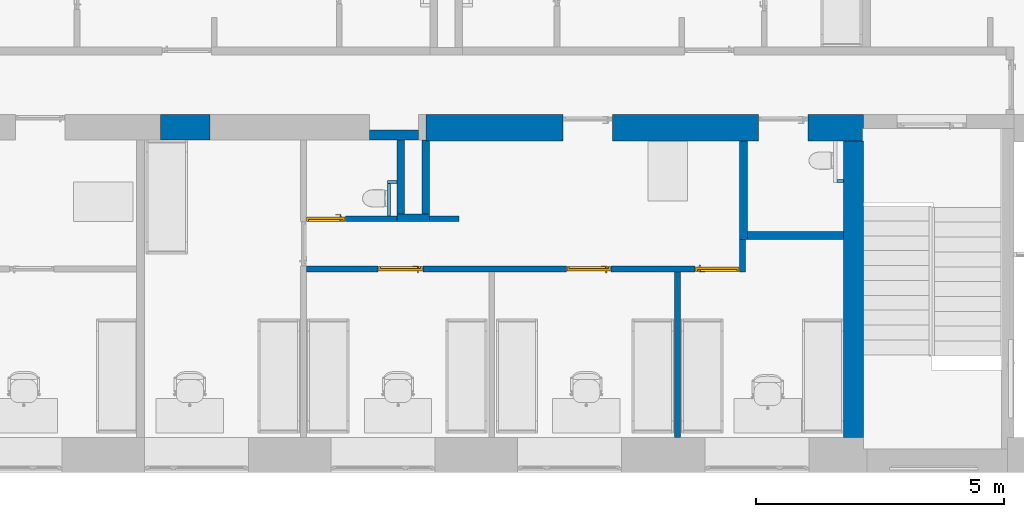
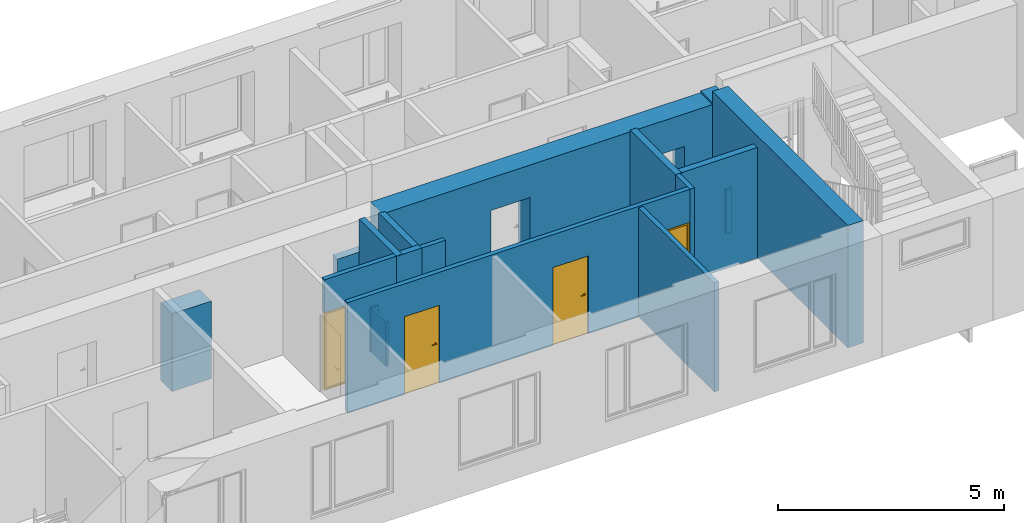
# One storey, part 10 of 46: 17 walls, 4 doors, 6 openings.
"""IFC2X3 building model written with IfcOpenShell, lengths in millimetres."""

from ifc_helpers import new_model, entity, si_unit, converted_unit, derived_unit, direction, frame, frame_2d, origin, place, context, subcontext, project, spatial, polyline, rectangle, outline, extrude, clip, bounded_halfspace, faceted_brep, source, transform, mapped, material, material_list, layer, layer_set, layer_usage, type_object, type_shapes, element, fill, save


model = new_model("IFC2X3")

# Units and contexts
model_context = context("Model", 3, precision=0.01, world=origin(), true_north=direction((6.12303176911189e-17, 1.0)))
body_context = subcontext(model_context, "Body", "Model", "MODEL_VIEW")
ifc_project = project(units=[si_unit("LENGTHUNIT", "METRE", prefix="MILLI"), si_unit("AREAUNIT", "SQUARE_METRE"), si_unit("VOLUMEUNIT", "CUBIC_METRE"), converted_unit("PLANEANGLEUNIT", "DEGREE", entity("IfcRatioMeasure", 0.0174532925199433), si_unit("PLANEANGLEUNIT", "RADIAN"), dimensions=[0, 0, 0, 0, 0, 0, 0]), si_unit("MASSUNIT", "GRAM", prefix="KILO"), derived_unit("MASSDENSITYUNIT", [(si_unit("MASSUNIT", "GRAM", prefix="KILO"), 1), (si_unit("LENGTHUNIT", "METRE"), -3)]), si_unit("TIMEUNIT", "SECOND"), si_unit("FREQUENCYUNIT", "HERTZ"), si_unit("THERMODYNAMICTEMPERATUREUNIT", "DEGREE_CELSIUS"), derived_unit("THERMALTRANSMITTANCEUNIT", [(si_unit("MASSUNIT", "GRAM", prefix="KILO"), 1), (si_unit("THERMODYNAMICTEMPERATUREUNIT", "KELVIN"), -1), (si_unit("TIMEUNIT", "SECOND"), -3)]), derived_unit("VOLUMETRICFLOWRATEUNIT", [(si_unit("LENGTHUNIT", "METRE"), 3), (si_unit("TIMEUNIT", "SECOND"), -1)]), si_unit("ELECTRICCURRENTUNIT", "AMPERE"), si_unit("ELECTRICVOLTAGEUNIT", "VOLT"), si_unit("POWERUNIT", "WATT"), si_unit("FORCEUNIT", "NEWTON", prefix="KILO"), si_unit("ILLUMINANCEUNIT", "LUX"), si_unit("LUMINOUSFLUXUNIT", "LUMEN"), si_unit("LUMINOUSINTENSITYUNIT", "CANDELA"), derived_unit("USERDEFINED", [(si_unit("MASSUNIT", "GRAM", prefix="KILO"), -1), (si_unit("LENGTHUNIT", "METRE"), -2), (si_unit("TIMEUNIT", "SECOND"), 3), (si_unit("LUMINOUSFLUXUNIT", "LUMEN"), 1)]), derived_unit("LINEARVELOCITYUNIT", [(si_unit("LENGTHUNIT", "METRE"), 1), (si_unit("TIMEUNIT", "SECOND"), -1)]), si_unit("PRESSUREUNIT", "PASCAL"), derived_unit("USERDEFINED", [(si_unit("LENGTHUNIT", "METRE"), -2), (si_unit("MASSUNIT", "GRAM", prefix="KILO"), 1), (si_unit("TIMEUNIT", "SECOND"), -2)]), derived_unit("LINEARFORCEUNIT", [(si_unit("MASSUNIT", "GRAM", prefix="KILO"), 1), (si_unit("LENGTHUNIT", "METRE"), 1), (si_unit("TIMEUNIT", "SECOND"), -2), (si_unit("LENGTHUNIT", "METRE"), -1)]), derived_unit("PLANARFORCEUNIT", [(si_unit("MASSUNIT", "GRAM", prefix="KILO"), 1), (si_unit("LENGTHUNIT", "METRE"), 1), (si_unit("TIMEUNIT", "SECOND"), -2), (si_unit("LENGTHUNIT", "METRE"), -2)])], contexts=[model_context])

# Site, building, storey
site_placement = place(None, origin())
site = spatial("IfcSite", under=ifc_project, at=site_placement, Name="Default", CompositionType="ELEMENT")
building_placement = place(site_placement, origin())
building = spatial("IfcBuilding", under=site, at=building_placement, Name="SMA ARH", CompositionType="ELEMENT")
storey_placement = place(building_placement, origin())
storey = spatial("IfcBuildingStorey", under=building, at=storey_placement, Name="1 Korrus", CompositionType="ELEMENT", Elevation=0.0)

# Walls
ifc_material_1 = material(Name="_ol.olev sein")
ifc_layer_1 = layer(ifc_material_1, 400.0)
ifc_layer_set_1 = layer_set([ifc_layer_1], Name="Basic Wall:Generic - 400mm")
ifc_layer_usage_1 = layer_usage(ifc_layer_set_1, "AXIS2", "POSITIVE", -200.0)
wall_type_1 = type_object("IfcWallType", Name="Basic Wall:Generic - 400mm", PredefinedType="STANDARD", material=ifc_layer_set_1)
wall_1_placement = place(storey_placement, frame((30630.0, 5985.0, 0.0), z_axis=(0.0, 0.0, 1.0), x_axis=(0.0, -1.0, 0.0)))
element("IfcWallStandardCase", 1, at=wall_1_placement, inside=storey, type_object=wall_type_1, material=ifc_layer_usage_1, Name="Basic Wall:Generic - 400mm", ObjectType="Basic Wall:Generic - 400mm", context=body_context, shape_type="SweptSolid", body=[
    extrude(rectangle(XDim=5985.00000000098, YDim=399.999999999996, at=frame_2d((2992.50000000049, -1.4210854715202e-14), x_axis=(-1.0, 0.0))), origin(), (0.0, 0.0, 1.0), 3299.99999999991),
])
ifc_material_2 = material(Name="EST. Müüritis. Väikeplokk. Kergkruusplokk")
ifc_layer_2 = layer(ifc_material_2, 150.0)
ifc_layer_set_2 = layer_set([ifc_layer_2], Name="Basic Wall:SS-02_ 150mm šahtide vahesein")
ifc_layer_usage_2 = layer_usage(ifc_layer_set_2, "AXIS2", "NEGATIVE", 75.0)
wall_type_2 = type_object("IfcWallType", Name="Basic Wall:SS-02_ 150mm šahtide vahesein", PredefinedType="STANDARD", material=ifc_layer_set_2)
wall_2_placement = place(storey_placement, frame((21495.0, 6010.0, 0.0), z_axis=(0.0, 0.0, 1.0), x_axis=(0.0, -1.0, 0.0)))
element("IfcWallStandardCase", 2, at=wall_2_placement, inside=storey, type_object=wall_type_2, material=ifc_layer_usage_2, Name="Basic Wall:SS-02_ 150mm šahtide vahesein", ObjectType="Basic Wall:SS-02_ 150mm šahtide vahesein", context=body_context, shape_type="SweptSolid", body=[
    extrude(rectangle(XDim=1650.00000000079, YDim=150.000000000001, at=frame_2d((825.000000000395, 2.20268248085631e-13), x_axis=(-1.0, 0.0))), origin(), (0.0, 0.0, 1.0), 2989.99999999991),
])
ifc_layer_usage_3 = layer_usage(ifc_layer_set_2, "AXIS2", "NEGATIVE", 75.0)
wall_3_placement = place(storey_placement, frame((21420.0, 4435.0, 0.0)))
element("IfcWallStandardCase", 3, at=wall_3_placement, inside=storey, type_object=wall_type_2, material=ifc_layer_usage_3, Name="Basic Wall:SS-02_ 150mm šahtide vahesein", ObjectType="Basic Wall:SS-02_ 150mm šahtide vahesein", context=body_context, shape_type="SweptSolid", body=[
    extrude(rectangle(XDim=649.999999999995, YDim=150.000000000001, at=frame_2d((324.999999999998, -7.105427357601e-14), x_axis=(-1.0, 0.0))), origin(), (0.0, 0.0, 1.0), 2979.99999999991),
])
ifc_layer_usage_4 = layer_usage(ifc_layer_set_2, "AXIS2", "NEGATIVE", 75.0)
wall_4_placement = place(storey_placement, frame((21995.0, 4510.0, 0.0), z_axis=(0.0, 0.0, 1.0), x_axis=(0.0, 1.0, 0.0)))
element("IfcWallStandardCase", 4, at=wall_4_placement, inside=storey, type_object=wall_type_2, material=ifc_layer_usage_4, Name="Basic Wall:SS-02_ 150mm šahtide vahesein", ObjectType="Basic Wall:SS-02_ 150mm šahtide vahesein", context=body_context, shape_type="SweptSolid", body=[
    extrude(outline(polyline([(1475.0, -75.0), (1475.0, -10.0), (1500.0, -10.0), (1500.0, 75.0), (0.0, 75.0), (0.0, -75.0), (1475.0, -75.0)])), origin(), (0.0, 0.0, 1.0), 2979.99999999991),
])
ifc_material_3 = material(Name="EST. Ehitusplaat. Kipsplaat")
ifc_layer_3 = layer(ifc_material_3, 12.5)
ifc_layer_4 = layer(ifc_material_3, 12.5)
ifc_material_4 = material(Name="EST. Soojustus. Mineraalvill. Default")
ifc_layer_5 = layer(ifc_material_4, 50.0)
ifc_layer_6 = layer(ifc_material_3, 12.5)
ifc_layer_7 = layer(ifc_material_4, 50.0)
ifc_layer_8 = layer(ifc_material_3, 12.5)
ifc_layer_9 = layer(ifc_material_3, 12.5)
ifc_layer_set_3 = layer_set([ifc_layer_3, ifc_layer_4, ifc_layer_5, ifc_layer_6, ifc_layer_7, ifc_layer_8, ifc_layer_9], Name="Basic Wall:SS-04_Kips, 50+50 mm metallkarkass 2")
ifc_layer_usage_5 = layer_usage(ifc_layer_set_3, "AXIS2", "NEGATIVE", 81.25)
wall_type_3 = type_object("IfcWallType", Name="Basic Wall:SS-04_Kips, 50+50 mm metallkarkass 2", PredefinedType="STANDARD", material=ifc_layer_set_3)
wall_5_placement = place(storey_placement, frame((30430.0, 4074.52258811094, 0.0), z_axis=(0.0, 0.0, 1.0), x_axis=(-1.0, 0.0, 0.0)))
element("IfcWallStandardCase", 5, at=wall_5_placement, inside=storey, type_object=wall_type_3, material=ifc_layer_usage_5, Name="Basic Wall:SS-04_Kips, 50+50 mm metallkarkass 2", ObjectType="Basic Wall:SS-04_Kips, 50+50 mm metallkarkass 2", context=body_context, shape_type="SweptSolid", body=[
    extrude(rectangle(XDim=1937.04499990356, YDim=162.5, at=frame_2d((968.522499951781, -2.1316282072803e-14), x_axis=(-1.0, 0.0))), origin(), (0.0, 0.0, 1.0), 2989.99999999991),
])
ifc_layer_usage_6 = layer_usage(ifc_layer_set_3, "AXIS2", "NEGATIVE", 81.25)
wall_6_placement = place(storey_placement, frame((28411.7050000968, 5985.0, 0.0), z_axis=(0.0, 0.0, 1.0), x_axis=(0.0, -1.0, 0.0)))
element("IfcWallStandardCase", 6, at=wall_6_placement, inside=storey, type_object=wall_type_3, material=ifc_layer_usage_6, Name="Basic Wall:SS-04_Kips, 50+50 mm metallkarkass 2", ObjectType="Basic Wall:SS-04_Kips, 50+50 mm metallkarkass 2", context=body_context, shape_type="SweptSolid", body=[
    extrude(rectangle(XDim=1991.72741188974, YDim=162.499999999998, at=frame_2d((995.863705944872, -4.76063632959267e-13), x_axis=(-1.0, 0.0))), origin(), (0.0, 0.0, 1.0), 2989.99999999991),
])

# Wall, openings, doors
ifc_layer_10 = layer(ifc_material_3, 12.5)
ifc_layer_11 = layer(ifc_material_3, 12.5)
ifc_layer_12 = layer(ifc_material_4, 66.0)
ifc_layer_13 = layer(ifc_material_3, 12.5)
ifc_layer_14 = layer(ifc_material_3, 12.5)
ifc_layer_set_4 = layer_set([ifc_layer_10, ifc_layer_11, ifc_layer_12, ifc_layer_13, ifc_layer_14], Name="Basic Wall:SS-05_Kips, 66mm metallkarkass")
ifc_layer_usage_7 = layer_usage(ifc_layer_set_4, "AXIS2", "NEGATIVE", 58.0)
wall_type_4 = type_object("IfcWallType", Name="Basic Wall:SS-05_Kips, 66mm metallkarkass", PredefinedType="STANDARD", material=ifc_layer_set_4)
wall_7_placement = place(storey_placement, frame((19588.0, 3402.0, 0.0)))
wall_7 = element("IfcWallStandardCase", 7, at=wall_7_placement, inside=storey, type_object=wall_type_4, material=ifc_layer_usage_7, Name="Basic Wall:SS-05_Kips, 66mm metallkarkass", ObjectType="Basic Wall:SS-05_Kips, 66mm metallkarkass", context=body_context, shape_type="SweptSolid", body=[
    extrude(rectangle(XDim=8742.45500009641, YDim=116.0, at=frame_2d((4371.22750004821, 1.17239551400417e-13), x_axis=(-1.0, 0.0))), origin(), (0.0, 0.0, 1.0), 2989.99999999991),
])
opening_1_placement = place(wall_7_placement, frame((7842.45500009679, -58.0, 0.0)))
opening_1 = element("IfcOpeningElement", 8, at=opening_1_placement, cuts=wall_7, Name="SMA_D01, 1-poolne:SU-P-05 - 900x2100 TUBA:1", ObjectType="Opening", context=body_context, shape_type="SweptSolid", body=[
    extrude(rectangle(XDim=2099.99999999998, YDim=900.0, at=frame_2d((1049.99999999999, 450.0), x_axis=(1.0, 0.0))), frame((0.0, 0.0, 0.0), z_axis=(0.0, 1.0, 0.0), x_axis=(0.0, 0.0, 1.0)), (0.0, 0.0, 1.0), 116.0),
])
opening_2_placement = place(wall_7_placement, frame((6150.0, 58.0, 0.0)))
opening_2 = element("IfcOpeningElement", 9, at=opening_2_placement, cuts=wall_7, Name="SMA_D01, 1-poolne:SU-P-05 - 900x2100 TUBA:1", ObjectType="Opening", context=body_context, shape_type="SweptSolid", body=[
    extrude(rectangle(XDim=2099.99999999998, YDim=900.0, at=frame_2d((1049.99999999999, 450.0), x_axis=(1.0, 0.0))), frame((0.0, 0.0, 0.0), z_axis=(0.0, -1.0, 0.0), x_axis=(0.0, 0.0, 1.0)), (0.0, 0.0, 1.0), 116.0),
])
opening_3_placement = place(wall_7_placement, frame((2350.0, 58.0, 0.0)))
opening_3 = element("IfcOpeningElement", 10, at=opening_3_placement, cuts=wall_7, Name="SMA_D01, 1-poolne:SU-P-05 - 900x2100 TUBA:1", ObjectType="Opening", context=body_context, shape_type="SweptSolid", body=[
    extrude(rectangle(XDim=2099.99999999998, YDim=900.0, at=frame_2d((1049.99999999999, 450.0), x_axis=(1.0, 0.0))), frame((0.0, 0.0, 0.0), z_axis=(0.0, -1.0, 0.0), x_axis=(0.0, 0.0, 1.0)), (0.0, 0.0, 1.0), 116.0),
])
ifc_material_5 = material(Name="EST. Metall. Alumiinium. Värvitud. RAL7023 (Concrete grey)")
ifc_material_6 = material(Name="<Unnamed>")
ifc_material_7 = material(Name="EST. Klaas. 3x. Default")
ifc_material_list_1 = material_list([ifc_material_6, ifc_material_7, ifc_material_6, ifc_material_5, ifc_material_5, ifc_material_5, ifc_material_6])
door_style_1 = type_object("IfcDoorStyle", Name="SMA_D01, 1-poolne:SU-P-05 - 900x2100 TUBA", ConstructionType="NOTDEFINED", OperationType="SINGLE_SWING_RIGHT", ParameterTakesPrecedence=False, Sizeable=False, material=ifc_material_list_1)
shared_shape_1 = source(origin(), body_context, "Body", "Brep", [
    faceted_brep([(110.0, 6.0, 1112.5), (110.0, 44.0, 1112.5), (85.0, 44.0, 1112.5), (85.0, 1.0, 1112.5), (205.0, 1.0, 1112.5), (205.0, 6.0, 1112.5), (110.0, 6.0, 1087.5), (205.0, 6.0, 1087.5), (205.0, 1.0, 1087.5), (85.0, 1.0, 1087.5), (85.0, 44.0, 1087.5), (110.0, 44.0, 1087.5)], [[[0, 1, 2, 3, 4, 5]], [[6, 7, 8, 9, 10, 11]], [[1, 0, 6, 11]], [[2, 1, 11, 10]], [[3, 2, 10, 9]], [[4, 3, 9, 8]], [[5, 4, 8, 7]], [[0, 5, 7, 6]]]),
    faceted_brep([(122.5, 44.0, 1137.5), (122.5, 46.0, 1137.5), (72.5000000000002, 46.0, 1137.5), (72.5000000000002, 44.0, 1137.5), (122.5, 44.0, 1017.5), (72.5000000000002, 44.0, 1017.5), (72.5000000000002, 46.0, 1017.5), (122.5, 46.0, 1017.5)], [[[0, 1, 2, 3]], [[4, 5, 6, 7]], [[1, 0, 4, 7]], [[2, 1, 7, 6]], [[3, 2, 6, 5]], [[0, 3, 5, 4]]]),
    faceted_brep([(110.0, 136.0, 1112.5), (205.0, 136.0, 1112.5), (205.0, 141.0, 1112.5), (85.0, 141.0, 1112.5), (85.0, 98.0, 1112.5), (110.0, 98.0, 1112.5), (110.0, 136.0, 1087.5), (110.0, 98.0, 1087.5), (85.0, 98.0, 1087.5), (85.0, 141.0, 1087.5), (205.0, 141.0, 1087.5), (205.0, 136.0, 1087.5)], [[[0, 1, 2, 3, 4, 5]], [[6, 7, 8, 9, 10, 11]], [[5, 7, 6, 0]], [[4, 8, 7, 5]], [[3, 9, 8, 4]], [[2, 10, 9, 3]], [[1, 11, 10, 2]], [[0, 6, 11, 1]]]),
    faceted_brep([(122.5, 98.0, 1137.5), (72.5000000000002, 98.0, 1137.5), (72.5000000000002, 96.0, 1137.5), (122.5, 96.0, 1137.5), (122.5, 98.0, 1017.5), (122.5, 96.0, 1017.5), (72.5000000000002, 96.0, 1017.5), (72.5000000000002, 98.0, 1017.5)], [[[0, 1, 2, 3]], [[4, 5, 6, 7]], [[3, 5, 4, 0]], [[2, 6, 5, 3]], [[1, 7, 6, 2]], [[0, 4, 7, 1]]]),
    faceted_brep([(850.0, 6.0, 30.0), (850.0, 6.0, 0.0), (850.0, 46.0, 0.0), (850.0, 46.0, 20.0), (850.0, 46.0, 30.0), (50.0, 6.0, 30.0), (50.0, 46.0, 30.0), (50.0, 46.0, 20.0), (50.0, 46.0, 0.0), (50.0, 6.0, 0.0), (35.0, 46.0, 0.0), (35.0, 96.0, 0.0), (865.0, 96.0, 0.0), (865.0, 46.0, 0.0), (865.0, 96.0, 20.0), (865.0, 46.0, 20.0), (35.0, 96.0, 20.0), (35.0, 46.0, 20.0)], [[[0, 1, 2, 3, 4]], [[5, 6, 7, 8, 9]], [[1, 0, 5, 9]], [[2, 1, 9, 8, 10, 11, 12, 13]], [[6, 4, 3, 7]], [[0, 4, 6, 5]], [[14, 15, 13, 12]], [[16, 11, 10, 17]], [[15, 14, 16, 17, 7, 3]], [[13, 15, 3, 2]], [[14, 12, 11, 16]], [[17, 10, 8, 7]]]),
    faceted_brep([(890.0, 6.0, 0.0), (850.0, 6.0, 0.0), (850.0, 46.0, 0.0), (865.0, 46.0, 0.0), (865.0, 96.0, 0.0), (890.0, 96.0, 0.0), (890.0, 6.0, 2090.0), (10.0, 6.0, 2090.0), (10.0, 6.0, 0.0), (50.0, 6.0, 0.0), (50.0, 6.0, 2050.0), (850.0, 6.0, 2050.0), (850.0, 46.0, 2050.0), (50.0, 46.0, 2050.0), (50.0, 46.0, 0.0), (35.0, 46.0, 0.0), (35.0, 46.0, 2065.0), (865.0, 46.0, 2065.0), (865.0, 96.0, 2065.0), (35.0, 96.0, 2065.0), (35.0, 96.0, 0.0), (10.0, 96.0, 0.0), (10.0, 96.0, 2090.0), (890.0, 96.0, 2090.0)], [[[0, 1, 2, 3, 4, 5]], [[1, 0, 6, 7, 8, 9, 10, 11]], [[2, 1, 11, 12]], [[3, 2, 12, 13, 14, 15, 16, 17]], [[4, 3, 17, 18]], [[5, 4, 18, 19, 20, 21, 22, 23]], [[0, 5, 23, 6]], [[8, 7, 22, 21]], [[9, 8, 21, 20, 15, 14]], [[10, 9, 14, 13]], [[16, 15, 20, 19]], [[11, 10, 13, 12]], [[17, 16, 19, 18]], [[7, 6, 23, 22]]]),
    faceted_brep([(35.0, 46.0, 2065.0), (35.0, 46.0, 20.0), (865.0, 46.0, 20.0), (865.0, 46.0, 2065.0), (35.0, 96.0, 2065.0), (865.0, 96.0, 2065.0), (865.0, 96.0, 20.0), (35.0, 96.0, 20.0)], [[[0, 1, 2, 3]], [[4, 5, 6, 7]], [[1, 0, 4, 7]], [[2, 1, 7, 6]], [[3, 2, 6, 5]], [[0, 3, 5, 4]]]),
])
type_shapes(door_style_1, [shared_shape_1])
door_1_placement = place(opening_3_placement, frame((0.0, 0.0, 0.0), z_axis=(0.0, 0.0, 1.0), x_axis=(-1.0, 0.0, 0.0)))
door_1 = element("IfcDoor", 11, at=door_1_placement, inside=storey, type_object=door_style_1, material=ifc_material_5, Name="SMA_D01, 1-poolne:SU-P-05 - 900x2100 TUBA", ObjectType="SMA_D01, 1-poolne:SU-P-05 - 900x2100 TUBA", OverallHeight=2099.99999999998, OverallWidth=900.000000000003, context=body_context, shape_type="MappedRepresentation", body=[
    mapped(shared_shape_1, transform((0.0, 0.0, 0.0), scale=1.0)),
])
fill(opening_3, door_1)
door_2_placement = place(opening_2_placement, frame((0.0, 0.0, 0.0), z_axis=(0.0, 0.0, 1.0), x_axis=(-1.0, 0.0, 0.0)))
door_2 = element("IfcDoor", 12, at=door_2_placement, inside=storey, type_object=door_style_1, material=ifc_material_5, Name="SMA_D01, 1-poolne:SU-P-05 - 900x2100 TUBA", ObjectType="SMA_D01, 1-poolne:SU-P-05 - 900x2100 TUBA", OverallHeight=2099.99999999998, OverallWidth=899.999999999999, context=body_context, shape_type="MappedRepresentation", body=[
    mapped(shared_shape_1, transform((0.0, 0.0, 0.0), scale=1.0)),
])
fill(opening_2, door_2)
door_3_placement = place(opening_1_placement, origin())
door_3 = element("IfcDoor", 13, at=door_3_placement, inside=storey, type_object=door_style_1, material=ifc_material_5, Name="SMA_D01, 1-poolne:SU-P-05 - 900x2100 TUBA", ObjectType="SMA_D01, 1-poolne:SU-P-05 - 900x2100 TUBA", OverallHeight=2099.99999999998, OverallWidth=899.999999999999, context=body_context, shape_type="MappedRepresentation", body=[
    mapped(shared_shape_1, transform((0.0, 0.0, 0.0), scale=1.0)),
])
fill(opening_1, door_3)

# Walls
ifc_layer_usage_8 = layer_usage(ifc_layer_set_4, "AXIS2", "POSITIVE", -58.0)
wall_8_placement = place(storey_placement, frame((27078.5000000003, 0.0, 0.0), z_axis=(0.0, 0.0, 1.0), x_axis=(0.0, 1.0, 0.0)))
element("IfcWallStandardCase", 14, at=wall_8_placement, inside=storey, type_object=wall_type_4, material=ifc_layer_usage_8, Name="Basic Wall:SS-05_Kips, 66mm metallkarkass", ObjectType="Basic Wall:SS-05_Kips, 66mm metallkarkass", context=body_context, shape_type="SweptSolid", body=[
    extrude(rectangle(XDim=3344.00000000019, YDim=116.0, at=frame_2d((1672.0000000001, -1.06581410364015e-14), x_axis=(-1.0, 0.0))), origin(), (0.0, 0.0, 1.0), 2949.99999999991),
])
ifc_layer_usage_9 = layer_usage(ifc_layer_set_4, "AXIS2", "NEGATIVE", 58.0)
wall_9_placement = place(storey_placement, frame((28388.4550000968, 3993.27258811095, 0.0), z_axis=(0.0, 0.0, 1.0), x_axis=(0.0, -1.0, 0.0)))
element("IfcWallStandardCase", 15, at=wall_9_placement, inside=storey, type_object=wall_type_4, material=ifc_layer_usage_9, Name="Basic Wall:SS-05_Kips, 66mm metallkarkass", ObjectType="Basic Wall:SS-05_Kips, 66mm metallkarkass", context=body_context, shape_type="SweptSolid", body=[
    extrude(rectangle(XDim=649.272588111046, YDim=116.0, at=frame_2d((324.636294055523, 5.47117906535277e-13), x_axis=(-1.0, 0.0))), origin(), (0.0, 0.0, 1.0), 2989.99999999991),
])
ifc_layer_15 = layer(ifc_material_3, 12.5)
ifc_layer_16 = layer(ifc_material_3, 12.5)
ifc_material_8 = material(Name="EST. Õhkvahe. Roov. Kipsplaadi alusroov. Vertikaalne")
ifc_layer_17 = layer(ifc_material_8, 66.0)
ifc_layer_18 = layer(ifc_material_3, 12.5)
ifc_layer_19 = layer(ifc_material_3, 12.5)
ifc_layer_set_5 = layer_set([ifc_layer_15, ifc_layer_16, ifc_layer_17, ifc_layer_18, ifc_layer_19], Name="Basic Wall:SS-03_Kips, 66mm metallkarkass")
ifc_layer_usage_10 = layer_usage(ifc_layer_set_5, "AXIS2", "NEGATIVE", 58.0)
wall_type_5 = type_object("IfcWallType", Name="Basic Wall:SS-03_Kips, 66mm metallkarkass", PredefinedType="STANDARD", material=ifc_layer_set_5)
wall_10_placement = place(storey_placement, frame((22070.0, 4418.0, 0.0)))
element("IfcWallStandardCase", 16, at=wall_10_placement, inside=storey, type_object=wall_type_5, material=ifc_layer_usage_10, Name="Basic Wall:SS-03_Kips, 66mm metallkarkass", ObjectType="Basic Wall:SS-03_Kips, 66mm metallkarkass", context=body_context, shape_type="SweptSolid", body=[
    extrude(rectangle(XDim=600.000000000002, YDim=116.0, at=frame_2d((300.000000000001, 0.0), x_axis=(-1.0, 0.0))), origin(), (0.0, 0.0, 1.0), 2979.99999999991),
])

# Wall, opening, door
ifc_layer_usage_11 = layer_usage(ifc_layer_set_5, "AXIS2", "NEGATIVE", 58.0)
wall_11_placement = place(storey_placement, frame((21420.0, 4418.0, 0.0), z_axis=(0.0, 0.0, 1.0), x_axis=(-1.0, 0.0, 0.0)))
wall_11 = element("IfcWallStandardCase", 17, at=wall_11_placement, inside=storey, type_object=wall_type_5, material=ifc_layer_usage_11, Name="Basic Wall:SS-03_Kips, 66mm metallkarkass", ObjectType="Basic Wall:SS-03_Kips, 66mm metallkarkass", context=body_context, shape_type="SweptSolid", body=[
    extrude(rectangle(XDim=1831.99999999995, YDim=116.0, at=frame_2d((915.999999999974, 1.17239551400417e-13), x_axis=(-1.0, 0.0))), origin(), (0.0, 0.0, 1.0), 2989.99999999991),
])
opening_4_placement = place(wall_11_placement, frame((1844.49999999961, 58.0, 0.0)))
opening_4 = element("IfcOpeningElement", 18, at=opening_4_placement, cuts=wall_11, Name="SMA_D01, 1-poolne:SU-P-06 - 800x2100 DUŠŠ:1", ObjectType="Opening", context=body_context, shape_type="SweptSolid", body=[
    extrude(rectangle(XDim=2099.99999999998, YDim=800.0, at=frame_2d((1049.99999999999, 400.0), x_axis=(1.0, 0.0))), frame((0.0, 0.0, 0.0), z_axis=(0.0, -1.0, 0.0), x_axis=(0.0, 0.0, 1.0)), (0.0, 0.0, 1.0), 116.0),
])
ifc_material_list_2 = material_list([ifc_material_7, ifc_material_5, ifc_material_6, ifc_material_5, ifc_material_6, ifc_material_5, ifc_material_6])
door_style_2 = type_object("IfcDoorStyle", Name="SMA_D01, 1-poolne:SU-P-06 - 800x2100 DUŠŠ", ConstructionType="NOTDEFINED", OperationType="SINGLE_SWING_LEFT", ParameterTakesPrecedence=False, Sizeable=False, material=ifc_material_list_2)
shared_shape_2 = source(origin(), body_context, "Body", "Brep", [
    faceted_brep([(690.0, 6.0, 1112.5), (595.0, 6.0, 1112.5), (595.0, 1.0, 1112.5), (715.0, 1.0, 1112.5), (715.0, 44.0, 1112.5), (690.0, 44.0, 1112.5), (690.0, 6.0, 1087.5), (690.0, 44.0, 1087.5), (715.0, 44.0, 1087.5), (715.0, 1.0, 1087.5), (595.0, 1.0, 1087.5), (595.0, 6.0, 1087.5)], [[[0, 1, 2, 3, 4, 5]], [[6, 7, 8, 9, 10, 11]], [[5, 7, 6, 0]], [[4, 8, 7, 5]], [[3, 9, 8, 4]], [[2, 10, 9, 3]], [[1, 11, 10, 2]], [[0, 6, 11, 1]]]),
    faceted_brep([(677.500000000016, 44.0, 1137.5), (727.500000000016, 44.0, 1137.5), (727.500000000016, 46.0, 1137.5), (677.500000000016, 46.0, 1137.5), (677.500000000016, 44.0, 1017.5), (677.500000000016, 46.0, 1017.5), (727.500000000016, 46.0, 1017.5), (727.500000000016, 44.0, 1017.5)], [[[0, 1, 2, 3]], [[4, 5, 6, 7]], [[3, 5, 4, 0]], [[2, 6, 5, 3]], [[1, 7, 6, 2]], [[0, 4, 7, 1]]]),
    faceted_brep([(690.0, 136.0, 1112.5), (690.0, 98.0, 1112.5), (715.0, 98.0, 1112.5), (715.0, 141.0, 1112.5), (595.0, 141.0, 1112.5), (595.0, 136.0, 1112.5), (690.0, 136.0, 1087.5), (595.0, 136.0, 1087.5), (595.0, 141.0, 1087.5), (715.0, 141.0, 1087.5), (715.0, 98.0, 1087.5), (690.0, 98.0, 1087.5)], [[[0, 1, 2, 3, 4, 5]], [[6, 7, 8, 9, 10, 11]], [[1, 0, 6, 11]], [[2, 1, 11, 10]], [[3, 2, 10, 9]], [[4, 3, 9, 8]], [[5, 4, 8, 7]], [[0, 5, 7, 6]]]),
    faceted_brep([(677.500000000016, 98.0, 1137.5), (677.500000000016, 96.0, 1137.5), (727.500000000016, 96.0, 1137.5), (727.500000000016, 98.0, 1137.5), (677.500000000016, 98.0, 1017.5), (727.500000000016, 98.0, 1017.5), (727.500000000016, 96.0, 1017.5), (677.500000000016, 96.0, 1017.5)], [[[0, 1, 2, 3]], [[4, 5, 6, 7]], [[1, 0, 4, 7]], [[2, 1, 7, 6]], [[3, 2, 6, 5]], [[0, 3, 5, 4]]]),
    faceted_brep([(50.0, 6.0, 30.0), (50.0, 46.0, 30.0), (50.0, 46.0, 20.0), (50.0, 46.0, 0.0), (50.0, 6.0, 0.0), (750.0, 6.0, 30.0), (750.0, 6.0, 0.0), (750.0, 46.0, 0.0), (750.0, 46.0, 20.0), (750.0, 46.0, 30.0), (35.0, 46.0, 0.0), (35.0, 96.0, 0.0), (765.0, 96.0, 0.0), (765.0, 46.0, 0.0), (35.0, 96.0, 20.0), (35.0, 46.0, 20.0), (765.0, 96.0, 20.0), (765.0, 46.0, 20.0)], [[[0, 1, 2, 3, 4]], [[5, 6, 7, 8, 9]], [[4, 6, 5, 0]], [[3, 10, 11, 12, 13, 7, 6, 4]], [[9, 8, 2, 1]], [[0, 5, 9, 1]], [[14, 11, 10, 15]], [[16, 17, 13, 12]], [[15, 2, 8, 17, 16, 14]], [[10, 3, 2, 15]], [[14, 16, 12, 11]], [[17, 8, 7, 13]]]),
    faceted_brep([(10.0, 6.0, 0.0), (10.0, 96.0, 0.0), (35.0, 96.0, 0.0), (35.0, 46.0, 0.0), (50.0, 46.0, 0.0), (50.0, 6.0, 0.0), (50.0, 6.0, 2050.0), (750.0, 6.0, 2050.0), (750.0, 6.0, 0.0), (790.0, 6.0, 0.0), (790.0, 6.0, 2090.0), (10.0, 6.0, 2090.0), (50.0, 46.0, 2050.0), (35.0, 46.0, 2065.0), (765.0, 46.0, 2065.0), (765.0, 46.0, 0.0), (750.0, 46.0, 0.0), (750.0, 46.0, 2050.0), (35.0, 96.0, 2065.0), (10.0, 96.0, 2090.0), (790.0, 96.0, 2090.0), (790.0, 96.0, 0.0), (765.0, 96.0, 0.0), (765.0, 96.0, 2065.0)], [[[0, 1, 2, 3, 4, 5]], [[5, 6, 7, 8, 9, 10, 11, 0]], [[4, 12, 6, 5]], [[3, 13, 14, 15, 16, 17, 12, 4]], [[2, 18, 13, 3]], [[1, 19, 20, 21, 22, 23, 18, 2]], [[0, 11, 19, 1]], [[9, 21, 20, 10]], [[8, 16, 15, 22, 21, 9]], [[7, 17, 16, 8]], [[14, 23, 22, 15]], [[6, 12, 17, 7]], [[13, 18, 23, 14]], [[10, 20, 19, 11]]]),
    faceted_brep([(765.0, 46.0, 2065.0), (35.0, 46.0, 2065.0), (35.0, 46.0, 20.0), (765.0, 46.0, 20.0), (765.0, 96.0, 2065.0), (765.0, 96.0, 20.0), (35.0, 96.0, 20.0), (35.0, 96.0, 2065.0)], [[[0, 1, 2, 3]], [[4, 5, 6, 7]], [[3, 5, 4, 0]], [[2, 6, 5, 3]], [[1, 7, 6, 2]], [[0, 4, 7, 1]]]),
])
type_shapes(door_style_2, [shared_shape_2])
door_4_placement = place(opening_4_placement, frame((0.0, 0.0, 0.0), z_axis=(0.0, 0.0, 1.0), x_axis=(-1.0, 0.0, 0.0)))
door_4 = element("IfcDoor", 19, at=door_4_placement, inside=storey, type_object=door_style_2, material=ifc_material_5, Name="SMA_D01, 1-poolne:SU-P-06 - 800x2100 DUŠŠ", ObjectType="SMA_D01, 1-poolne:SU-P-06 - 800x2100 DUŠŠ", OverallHeight=2099.99999999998, OverallWidth=800.0, context=body_context, shape_type="MappedRepresentation", body=[
    mapped(shared_shape_2, transform((0.0, 0.0, 0.0), scale=1.0)),
])
fill(opening_4, door_4)

# Walls
ifc_material_9 = material(Name="EST. Põrand. Plaatkate")
ifc_layer_20 = layer(ifc_material_9, 10.0)
ifc_layer_21 = layer(ifc_material_3, 12.5)
ifc_layer_22 = layer(ifc_material_8, 42.0)
ifc_layer_set_6 = layer_set([ifc_layer_20, ifc_layer_21, ifc_layer_22], Name="Basic Wall:SS-04 - loputuskast")
ifc_layer_usage_12 = layer_usage(ifc_layer_set_6, "AXIS2", "NEGATIVE", 32.25)
wall_type_6 = type_object("IfcWallType", Name="Basic Wall:SS-04 - loputuskast", PredefinedType="STANDARD", material=ifc_layer_set_6)
wall_12_placement = place(storey_placement, frame((21252.2500000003, 4476.0, 0.0), z_axis=(0.0, 0.0, 1.0), x_axis=(0.0, 1.0, 0.0)))
element("IfcWallStandardCase", 20, at=wall_12_placement, inside=storey, type_object=wall_type_6, material=ifc_layer_usage_12, Name="Basic Wall:SS-04 - loputuskast", ObjectType="Basic Wall:SS-04 - loputuskast", context=body_context, shape_type="SweptSolid", body=[
    extrude(rectangle(XDim=652.500000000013, YDim=64.5000000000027, at=frame_2d((326.250000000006, 0.0), x_axis=(-1.0, 0.0))), origin(), (0.0, 0.0, 1.0), 1200.0),
])
ifc_layer_usage_13 = layer_usage(ifc_layer_set_6, "AXIS2", "NEGATIVE", 32.25)
wall_13_placement = place(storey_placement, frame((21220.0, 5160.74999999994, 0.0)))
element("IfcWallStandardCase", 21, at=wall_13_placement, inside=storey, type_object=wall_type_6, material=ifc_layer_usage_13, Name="Basic Wall:SS-04 - loputuskast", ObjectType="Basic Wall:SS-04 - loputuskast", context=body_context, shape_type="SweptSolid", body=[
    extrude(rectangle(XDim=199.999999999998, YDim=64.5000000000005, at=frame_2d((99.9999999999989, 0.0), x_axis=(-1.0, 0.0))), origin(), (0.0, 0.0, 1.0), 1200.0),
])
ifc_layer_usage_14 = layer_usage(ifc_layer_set_6, "AXIS2", "POSITIVE", -32.25)
wall_14_placement = place(storey_placement, frame((30294.5000000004, 5177.75000000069, 0.0)))
element("IfcWallStandardCase", 22, at=wall_14_placement, inside=storey, type_object=wall_type_6, material=ifc_layer_usage_14, Name="Basic Wall:SS-04 - loputuskast", ObjectType="Basic Wall:SS-04 - loputuskast", context=body_context, shape_type="SweptSolid", body=[
    extrude(rectangle(XDim=135.5, YDim=64.5000000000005, at=frame_2d((67.7499999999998, 0.0), x_axis=(-1.0, 0.0))), origin(), (0.0, 0.0, 1.0), 1200.0),
])
ifc_layer_23 = layer(ifc_material_2, 200.0)
ifc_layer_set_7 = layer_set([ifc_layer_23], Name="Basic Wall:SS-00_Fibo 200mm")
ifc_layer_usage_15 = layer_usage(ifc_layer_set_7, "AXIS2", "NEGATIVE", 100.0)
wall_type_7 = type_object("IfcWallType", Name="Basic Wall:SS-00_Fibo 200mm", PredefinedType="STANDARD", material=ifc_layer_set_7)
wall_15_placement = place(storey_placement, frame((20865.0, 6110.0, 0.0)))
element("IfcWallStandardCase", 23, at=wall_15_placement, inside=storey, type_object=wall_type_7, material=ifc_layer_usage_15, Name="Basic Wall:SS-00_Fibo 200mm", ObjectType="Basic Wall:SS-00_Fibo 200mm", context=body_context, shape_type="SweptSolid", body=[
    extrude(rectangle(XDim=989.999999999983, YDim=200.0, at=frame_2d((494.999999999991, 0.0), x_axis=(-1.0, 0.0))), origin(), (0.0, 0.0, 1.0), 2099.99999999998),
])
ifc_layer_24 = layer(ifc_material_2, 510.0)
ifc_layer_set_8 = layer_set([ifc_layer_24], Name="Basic Wall:SS-03_Fibo 510mm kinnilaotav ava")
ifc_layer_usage_16 = layer_usage(ifc_layer_set_8, "AXIS2", "NEGATIVE", 255.0)
wall_type_8 = type_object("IfcWallType", Name="Basic Wall:SS-03_Fibo 510mm kinnilaotav ava", PredefinedType="STANDARD", material=ifc_layer_set_8)
wall_16_placement = place(storey_placement, frame((16645.0, 6265.0, 0.0)))
element("IfcWallStandardCase", 24, at=wall_16_placement, inside=storey, type_object=wall_type_8, material=ifc_layer_usage_16, Name="Basic Wall:SS-03_Fibo 510mm kinnilaotav ava", ObjectType="Basic Wall:SS-03_Fibo 510mm kinnilaotav ava", context=body_context, shape_type="SweptSolid", body=[
    extrude(rectangle(XDim=1000.0, YDim=510.000000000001, at=frame_2d((500.000000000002, 0.0), x_axis=(-1.0, 0.0))), origin(), (0.0, 0.0, 1.0), 2099.99999999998),
])

# Wall, openings
ifc_layer_25 = layer(ifc_material_1, 535.0)
ifc_layer_set_9 = layer_set([ifc_layer_25], Name="Basic Wall:Generic - 535mm")
ifc_layer_usage_17 = layer_usage(ifc_layer_set_9, "AXIS2", "POSITIVE", -267.5)
wall_type_9 = type_object("IfcWallType", Name="Basic Wall:Generic - 535mm", PredefinedType="STANDARD", material=ifc_layer_set_9)
wall_17_placement = place(storey_placement, frame((22005.0, 6252.50000000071, 0.0)))
wall_17 = element("IfcWallStandardCase", 25, at=wall_17_placement, inside=storey, type_object=wall_type_9, material=ifc_layer_usage_17, Name="Basic Wall:Generic - 535mm", ObjectType="Basic Wall:Generic - 535mm", context=body_context, shape_type="Clipping", body=[
    clip(clip(extrude(rectangle(XDim=8824.99999999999, YDim=535.0, at=frame_2d((4412.49999999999, 1.4210854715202e-13), x_axis=(-1.0, 0.0))), origin(), (0.0, 0.0, 1.0), 2989.99999999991), bounded_halfspace(frame((8425.0, -267.5, 2940.0), z_axis=(0.0, 0.0, -1.0), x_axis=(0.0, 1.0, 0.0)), True, frame((8425.0, -267.5, 2940.0), z_axis=(0.0, 0.0, -1.0), x_axis=(0.0, 1.0, 0.0)), polyline([(0.0, 0.0), (0.0, -8425.0), (535.0, -8425.0), (535.0, 0.0), (0.0, 0.0)]))), bounded_halfspace(frame((8425.0, 267.499999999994, 2940.0), z_axis=(1.0, 0.0, 0.0), x_axis=(0.0, 0.0, 1.0)), True, frame((8425.0, 267.499999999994, 2940.0), z_axis=(1.0, 0.0, 0.0), x_axis=(0.0, 0.0, 1.0)), polyline([(0.0, 0.0), (50.0, 0.0), (50.0, 535.0), (0.0, 535.0), (0.0, 0.0)]))),
])
opening_5_placement = place(wall_17_placement, frame((3765.0, 267.499999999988, 0.0)))
element("IfcOpeningElement", 26, at=opening_5_placement, cuts=wall_17, Name="SMA_D01, 1-poolne:SU-P-04 - 1000x2060 EI-30:1", ObjectType="Opening", context=body_context, shape_type="SweptSolid", body=[
    extrude(rectangle(XDim=2059.99999999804, YDim=1000.0, at=frame_2d((1029.99999999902, 500.0), x_axis=(1.0, 0.0))), frame((0.0, 0.0, 0.0), z_axis=(0.0, -1.0, 0.0), x_axis=(0.0, 0.0, 1.0)), (0.0, 0.0, 1.0), 535.0),
])
opening_6_placement = place(wall_17_placement, frame((7710.0, 267.499999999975, 0.0)))
element("IfcOpeningElement", 27, at=opening_6_placement, cuts=wall_17, Name="SMA_D01, 1-poolne:SU-P-07 - 1000x2100:1", ObjectType="Opening", context=body_context, shape_type="SweptSolid", body=[
    extrude(rectangle(XDim=2059.99999999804, YDim=1000.0, at=frame_2d((1029.99999999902, 500.0), x_axis=(1.0, 0.0))), frame((0.0, 0.0, 0.0), z_axis=(0.0, -1.0, 0.0), x_axis=(0.0, 0.0, 1.0)), (0.0, 0.0, 1.0), 535.0),
])

save(model, "model.ifc")
